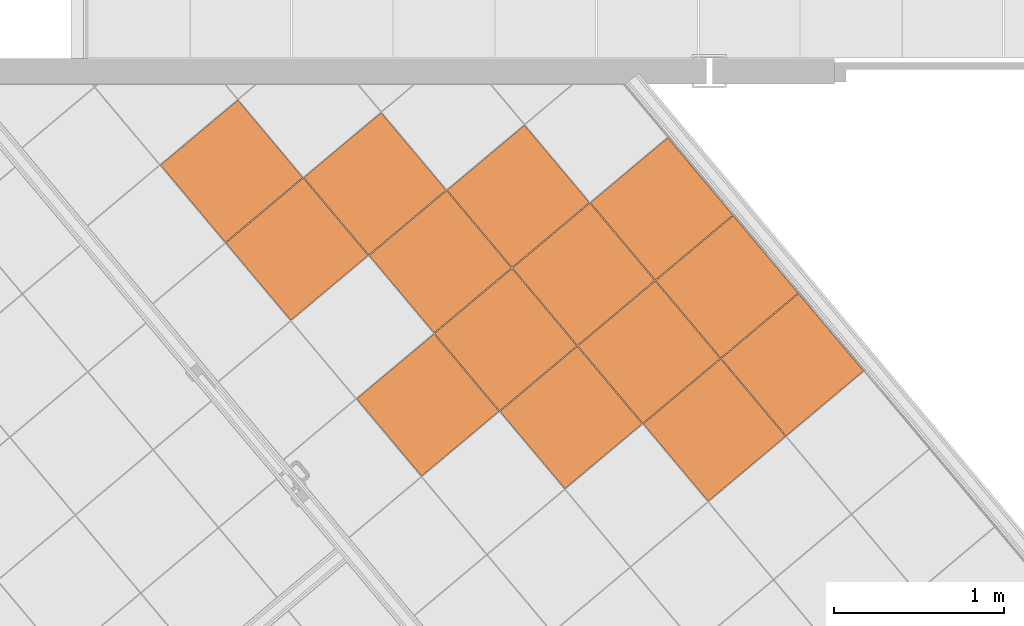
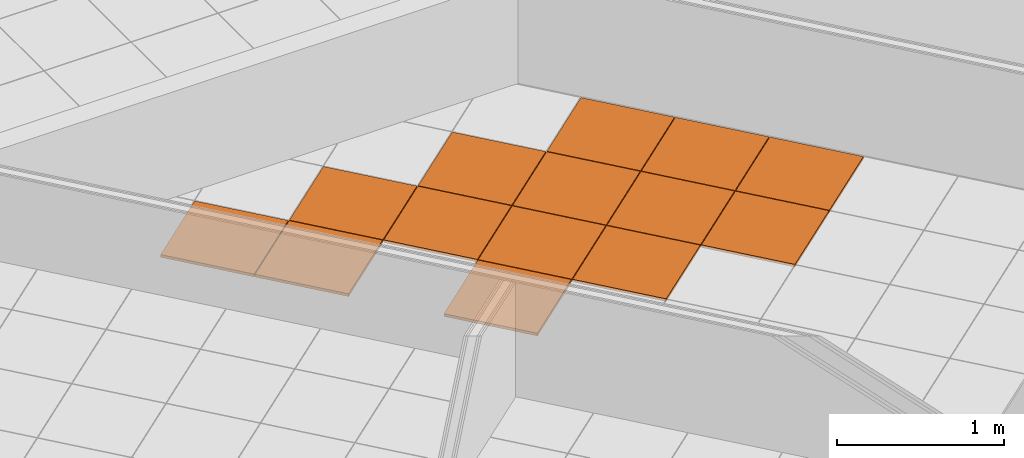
# One storey, part 197 of 338: 14 proxies, 1 element without a shape of its own.
"""IFC2X3 building model written with IfcOpenShell, lengths in millimetres."""

from ifc_helpers import new_model, entity, si_unit, converted_unit, derived_unit, money_unit, direction, frame, origin_with_axes, place, context, subcontext, project, spatial, faceted_brep, source, transform, mapped, material, type_object, type_shapes, element, aggregate, save


model = new_model("IFC2X3")

# Units and contexts
model_context = context("Model", 3, precision=0.01, world=origin_with_axes(), true_north=direction((0.0, 1.0)))
plan_context = context("Plan", 3, precision=0.01, world=origin_with_axes(), true_north=direction((0.0, 1.0)))
body_context = subcontext(model_context, "Body", "Model", "MODEL_VIEW")
ifc_project = project(units=[si_unit("LENGTHUNIT", "METRE", prefix="MILLI"), si_unit("AREAUNIT", "SQUARE_METRE"), si_unit("VOLUMEUNIT", "CUBIC_METRE"), converted_unit("PLANEANGLEUNIT", "DEGREE", entity("IfcPlaneAngleMeasure", 0.0174532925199), si_unit("PLANEANGLEUNIT", "RADIAN"), dimensions=[0, 0, 0, 0, 0, 0, 0]), money_unit("EUR"), converted_unit("TIMEUNIT", "Year", entity("IfcTimeMeasure", 31556926.0), si_unit("TIMEUNIT", "SECOND"), dimensions=[0, 0, 1, 0, 0, 0, 0]), si_unit("MASSUNIT", "GRAM", prefix="KILO"), si_unit("THERMODYNAMICTEMPERATUREUNIT", "DEGREE_CELSIUS"), si_unit("LUMINOUSINTENSITYUNIT", "LUMEN"), si_unit("ENERGYUNIT", "JOULE", prefix="MEGA"), derived_unit("THERMALCONDUCTANCEUNIT", [(si_unit("POWERUNIT", "WATT"), 1), (si_unit("LENGTHUNIT", "METRE"), -1), (si_unit("THERMODYNAMICTEMPERATUREUNIT", "KELVIN"), -1)]), derived_unit("SPECIFICHEATCAPACITYUNIT", [(si_unit("ENERGYUNIT", "JOULE"), 1), (si_unit("MASSUNIT", "GRAM", prefix="KILO"), -1), (si_unit("THERMODYNAMICTEMPERATUREUNIT", "KELVIN"), -1)]), derived_unit("MASSDENSITYUNIT", [(si_unit("MASSUNIT", "GRAM", prefix="KILO"), 1), (si_unit("VOLUMEUNIT", "CUBIC_METRE"), -1)])], contexts=[model_context, plan_context])

# Site, building, storey
site_placement = place(None, origin_with_axes())
site = spatial("IfcSite", under=ifc_project, at=site_placement, Name="Fortuinstraat Woensdrecht", CompositionType="ELEMENT")
building_placement = place(site_placement, origin_with_axes())
building = spatial("IfcBuilding", under=site, at=building_placement, Name="IKC Fortuna", CompositionType="ELEMENT")
storey_placement = place(building_placement, origin_with_axes())
storey = spatial("IfcBuildingStorey", under=building, at=storey_placement, Name="00 begane grond", CompositionType="ELEMENT", Elevation=0.0)

# Covering, proxies
covering_type = type_object("IfcCoveringType", Name="Curtain Wall Type", PredefinedType="CEILING")
covering_placement = place(storey_placement, frame((30245.4600673, -364.084118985, 2810.0), z_axis=(0.0, 0.0, 1.0), x_axis=(1.0, 0.0, 0.0)))
covering = element("IfcCovering", 1, at=covering_placement, inside=storey, type_object=covering_type, Name="45_Plafondafwerking_P02", PredefinedType="CEILING")
ifc_material = material(Name="Gipsplaat")
building_element_proxy_type = type_object("IfcBuildingElementProxyType", Name="Distinct Panel 600 x 600 x 20", PredefinedType="NOTDEFINED")
shared_shape_1 = source(origin_with_axes(), body_context, "Body", "Brep", [
    faceted_brep([(597.499991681, 597.50000021, -10.0), (2.49999975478, 597.499991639, -10.0), (2.49999975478, 597.499991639, 10.0), (597.499991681, 597.50000021, 10.0), (597.499992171, 2.49999865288, -10.0), (2.4999986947, 2.50000779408, -10.0), (2.4999986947, 2.50000779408, 10.0), (597.499992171, 2.49999865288, 10.0)], [[[0, 1, 2, 3]], [[0, 4, 5, 1]], [[1, 5, 6, 2]], [[3, 2, 6, 7]], [[4, 0, 3, 7]], [[5, 4, 7, 6]]]),
])
proxy_1_placement = place(covering_placement, origin_with_axes())
proxy_1 = element("IfcBuildingElementProxy", 2, at=proxy_1_placement, type_object=building_element_proxy_type, material=ifc_material, Name="__Panel-D", context=body_context, shape_type="MappedRepresentation", body=[
    mapped(shared_shape_1, transform((-36.9774942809, -422.649576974, 0.0), x_axis=(0.766045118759, 0.642786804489, 0.0), y_axis=(-0.642786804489, 0.766045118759, 0.0), z_axis=(0.0, 0.0, 1.0))),
])
proxy_2_placement = place(covering_placement, frame((-1616.64331934, 993.209131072, 0.0), z_axis=(0.0, 0.0, 1.0), x_axis=(1.0, 0.0, 0.0)))
proxy_2 = element("IfcBuildingElementProxy", 3, at=proxy_2_placement, type_object=building_element_proxy_type, material=ifc_material, Name="__Panel-D", context=body_context, shape_type="MappedRepresentation", body=[
    mapped(shared_shape_1, transform((-36.9774942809, -422.649576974, 0.0), x_axis=(0.766045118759, 0.642786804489, 0.0), y_axis=(-0.642786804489, 0.766045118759, 0.0), z_axis=(0.0, 0.0, 1.0))),
])
shared_shape_2 = source(origin_with_axes(), body_context, "Body", "Brep", [
    faceted_brep([(597.49999164, 597.500000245, -10.0), (2.50000779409, 597.500001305, -10.0), (2.50000779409, 597.500001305, 10.0), (597.49999164, 597.500000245, 10.0), (597.50000021, 2.50000831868, -10.0), (2.49999865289, 2.50000782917, -10.0), (2.49999865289, 2.50000782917, 10.0), (597.50000021, 2.50000831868, 10.0)], [[[0, 1, 2, 3]], [[0, 4, 5, 1]], [[1, 5, 6, 2]], [[3, 2, 6, 7]], [[4, 0, 3, 7]], [[5, 4, 7, 6]]]),
])
proxy_3_placement = place(covering_placement, frame((-1157.01624808, 1378.88121377, 0.0), z_axis=(0.0, 0.0, 1.0), x_axis=(1.0, 0.0, 0.0)))
proxy_3 = element("IfcBuildingElementProxy", 4, at=proxy_3_placement, type_object=building_element_proxy_type, material=ifc_material, Name="__Panel-D", context=body_context, shape_type="MappedRepresentation", body=[
    mapped(shared_shape_2, transform((-36.9774942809, -422.649576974, 0.0), x_axis=(0.766045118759, 0.642786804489, 0.0), y_axis=(-0.642786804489, 0.766045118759, 0.0), z_axis=(0.0, 0.0, 1.0))),
])
proxy_4_placement = place(covering_placement, frame((-1690.5983079, 147.909977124, 0.0), z_axis=(0.0, 0.0, 1.0), x_axis=(1.0, 0.0, 0.0)))
proxy_4 = element("IfcBuildingElementProxy", 5, at=proxy_4_placement, type_object=building_element_proxy_type, material=ifc_material, Name="__Panel-D", context=body_context, shape_type="MappedRepresentation", body=[
    mapped(shared_shape_2, transform((-36.9774942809, -422.649576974, 0.0), x_axis=(0.766045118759, 0.642786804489, 0.0), y_axis=(-0.642786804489, 0.766045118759, 0.0), z_axis=(0.0, 0.0, 1.0))),
])
proxy_5_placement = place(covering_placement, frame((-771.344165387, 919.254142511, 0.0), z_axis=(0.0, 0.0, 1.0), x_axis=(1.0, 0.0, 0.0)))
proxy_5 = element("IfcBuildingElementProxy", 6, at=proxy_5_placement, type_object=building_element_proxy_type, material=ifc_material, Name="__Panel-D", context=body_context, shape_type="MappedRepresentation", body=[
    mapped(shared_shape_2, transform((-36.9774942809, -422.649576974, 0.0), x_axis=(0.766045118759, 0.642786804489, 0.0), y_axis=(-0.642786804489, 0.766045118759, 0.0), z_axis=(0.0, 0.0, 1.0))),
])
proxy_6_placement = place(covering_placement, frame((-845.299153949, 73.9549885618, 0.0), z_axis=(0.0, 0.0, 1.0), x_axis=(1.0, 0.0, 0.0)))
proxy_6 = element("IfcBuildingElementProxy", 7, at=proxy_6_placement, type_object=building_element_proxy_type, material=ifc_material, Name="__Panel-D", context=body_context, shape_type="MappedRepresentation", body=[
    mapped(shared_shape_2, transform((-36.9774942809, -422.649576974, 0.0), x_axis=(0.766045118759, 0.642786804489, 0.0), y_axis=(-0.642786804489, 0.766045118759, 0.0), z_axis=(0.0, 0.0, 1.0))),
])
proxy_7_placement = place(covering_placement, frame((-385.672082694, 459.627071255, 0.0), z_axis=(0.0, 0.0, 1.0), x_axis=(1.0, 0.0, 0.0)))
proxy_7 = element("IfcBuildingElementProxy", 8, at=proxy_7_placement, type_object=building_element_proxy_type, material=ifc_material, Name="__Panel-D", context=body_context, shape_type="MappedRepresentation", body=[
    mapped(shared_shape_2, transform((-36.9774942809, -422.649576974, 0.0), x_axis=(0.766045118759, 0.642786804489, 0.0), y_axis=(-0.642786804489, 0.766045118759, 0.0), z_axis=(0.0, 0.0, 1.0))),
])
proxy_8_placement = place(covering_placement, frame((-1230.97123664, 533.582059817, 0.0), z_axis=(0.0, 0.0, 1.0), x_axis=(1.0, 0.0, 0.0)))
proxy_8 = element("IfcBuildingElementProxy", 9, at=proxy_8_placement, type_object=building_element_proxy_type, material=ifc_material, Name="__Panel-D", context=body_context, shape_type="MappedRepresentation", body=[
    mapped(shared_shape_2, transform((-36.9774942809, -422.649576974, 0.0), x_axis=(0.766045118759, 0.642786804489, 0.0), y_axis=(-0.642786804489, 0.766045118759, 0.0), z_axis=(0.0, 0.0, 1.0))),
])
proxy_9_placement = place(covering_placement, frame((-2002.31540203, 1452.83620233, 0.0), z_axis=(0.0, 0.0, 1.0), x_axis=(1.0, 0.0, 0.0)))
proxy_9 = element("IfcBuildingElementProxy", 10, at=proxy_9_placement, type_object=building_element_proxy_type, material=ifc_material, Name="__Panel-D", context=body_context, shape_type="MappedRepresentation", body=[
    mapped(shared_shape_2, transform((-36.9774942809, -422.649576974, 0.0), x_axis=(0.766045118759, 0.642786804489, 0.0), y_axis=(-0.642786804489, 0.766045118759, 0.0), z_axis=(0.0, 0.0, 1.0))),
])
proxy_10_placement = place(covering_placement, frame((-2847.61455598, 1526.79119089, 0.0), z_axis=(0.0, 0.0, 1.0), x_axis=(1.0, 0.0, 0.0)))
proxy_10 = element("IfcBuildingElementProxy", 11, at=proxy_10_placement, type_object=building_element_proxy_type, material=ifc_material, Name="__Panel-D", context=body_context, shape_type="MappedRepresentation", body=[
    mapped(shared_shape_2, transform((-36.9774942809, -422.649576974, 0.0), x_axis=(0.766045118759, 0.642786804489, 0.0), y_axis=(-0.642786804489, 0.766045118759, 0.0), z_axis=(0.0, 0.0, 1.0))),
])
proxy_11_placement = place(covering_placement, frame((-2461.94247329, 1067.16411963, 0.0), z_axis=(0.0, 0.0, 1.0), x_axis=(1.0, 0.0, 0.0)))
proxy_11 = element("IfcBuildingElementProxy", 12, at=proxy_11_placement, type_object=building_element_proxy_type, material=ifc_material, Name="__Panel-D", context=body_context, shape_type="MappedRepresentation", body=[
    mapped(shared_shape_2, transform((-36.9774942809, -422.649576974, 0.0), x_axis=(0.766045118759, 0.642786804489, 0.0), y_axis=(-0.642786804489, 0.766045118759, 0.0), z_axis=(0.0, 0.0, 1.0))),
])
shared_shape_3 = source(origin_with_axes(), body_context, "Body", "Brep", [
    faceted_brep([(597.500001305, 597.499992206, -10.0), (2.50000782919, 597.500001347, -10.0), (2.50000782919, 597.500001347, 10.0), (597.500001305, 597.499992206, 10.0), (597.500000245, 2.5000083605, -10.0), (2.50000831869, 2.49999978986, -10.0), (2.50000831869, 2.49999978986, 10.0), (597.500000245, 2.5000083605, 10.0)], [[[0, 1, 2, 3]], [[0, 4, 5, 1]], [[1, 5, 6, 2]], [[3, 2, 6, 7]], [[4, 0, 3, 7]], [[5, 4, 7, 6]]]),
])
proxy_12_placement = place(covering_placement, frame((73.9549885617, 845.299153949, 0.0), z_axis=(0.0, 0.0, 1.0), x_axis=(1.0, 0.0, 0.0)))
proxy_12 = element("IfcBuildingElementProxy", 13, at=proxy_12_placement, type_object=building_element_proxy_type, material=ifc_material, Name="__Panel-D", context=body_context, shape_type="MappedRepresentation", body=[
    mapped(shared_shape_3, transform((-36.9774942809, -422.649576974, 0.0), x_axis=(0.766045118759, 0.642786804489, 0.0), y_axis=(-0.642786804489, 0.766045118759, 0.0), z_axis=(0.0, 0.0, 1.0))),
])
proxy_13_placement = place(covering_placement, frame((-311.717094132, 1304.9262252, 0.0), z_axis=(0.0, 0.0, 1.0), x_axis=(1.0, 0.0, 0.0)))
proxy_13 = element("IfcBuildingElementProxy", 14, at=proxy_13_placement, type_object=building_element_proxy_type, material=ifc_material, Name="__Panel-D", context=body_context, shape_type="MappedRepresentation", body=[
    mapped(shared_shape_3, transform((-36.9774942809, -422.649576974, 0.0), x_axis=(0.766045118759, 0.642786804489, 0.0), y_axis=(-0.642786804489, 0.766045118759, 0.0), z_axis=(0.0, 0.0, 1.0))),
])
shared_shape_4 = source(origin_with_axes(), body_context, "Body", "Brep", [
    faceted_brep([(597.49999164, 597.500000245, -10.0), (2.50000779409, 597.500001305, -10.0), (2.50000779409, 597.500001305, 10.0), (597.49999164, 597.500000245, 10.0), (597.50000021, 2.50000831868, -10.0), (2.49999865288, 2.50000782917, -10.0), (2.49999865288, 2.50000782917, 10.0), (597.50000021, 2.50000831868, 10.0)], [[[0, 1, 2, 3]], [[0, 4, 5, 1]], [[1, 5, 6, 2]], [[3, 2, 6, 7]], [[4, 0, 3, 7]], [[5, 4, 7, 6]]]),
])
type_shapes(building_element_proxy_type, [shared_shape_1, shared_shape_2, shared_shape_3, shared_shape_4])
proxy_14_placement = place(covering_placement, frame((459.627071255, 385.672082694, 0.0), z_axis=(0.0, 0.0, 1.0), x_axis=(1.0, 0.0, 0.0)))
proxy_14 = element("IfcBuildingElementProxy", 15, at=proxy_14_placement, type_object=building_element_proxy_type, material=ifc_material, Name="__Panel-D", context=body_context, shape_type="MappedRepresentation", body=[
    mapped(shared_shape_4, transform((-36.9774942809, -422.649576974, 0.0), x_axis=(0.766045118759, 0.642786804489, 0.0), y_axis=(-0.642786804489, 0.766045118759, 0.0), z_axis=(0.0, 0.0, 1.0))),
])
aggregate(covering, [proxy_1, proxy_3, proxy_2, proxy_4, proxy_5, proxy_6, proxy_7, proxy_8, proxy_9, proxy_14, proxy_10, proxy_11, proxy_12, proxy_13])

save(model, "model.ifc")
